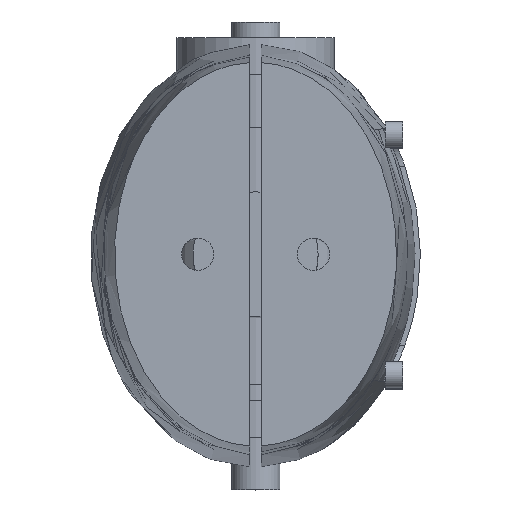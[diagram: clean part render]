
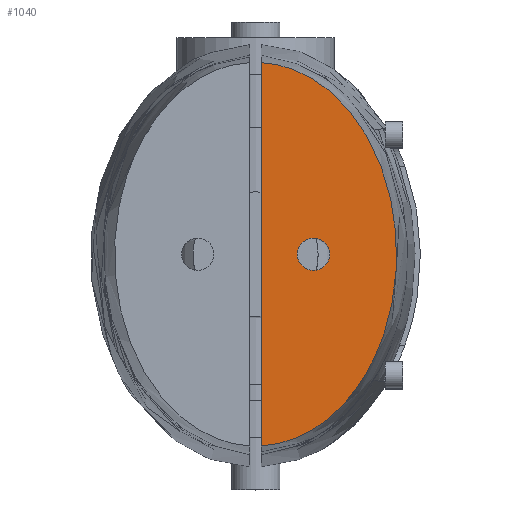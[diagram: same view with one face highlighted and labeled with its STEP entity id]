
A CAD part, top view. The second image highlights one B-rep face of the part: STEP entity #1040.
In plain terms, the highlighted planar face has unit normal (0, 0, 1).
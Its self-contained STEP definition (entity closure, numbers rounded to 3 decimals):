
#465 = VERTEX_POINT('',#466);
#466 = CARTESIAN_POINT('',(0.25,-8.274,43.2));
#564 = VERTEX_POINT('',#565);
#565 = CARTESIAN_POINT('',(0.25,8.274,43.2));
#642 = EDGE_CURVE('',#465,#564,#643,.T.);
#643 = B_SPLINE_CURVE_WITH_KNOTS('',14,(#644,#645,#646,#647,#648,#649,
    #650,#651,#652,#653,#654,#655,#656,#657,#658),.UNSPECIFIED.,.T.,.F.,
  (15,15),(0.,1.),.PIECEWISE_BEZIER_KNOTS.);
#644 = CARTESIAN_POINT('',(0.,8.281,43.2));
#645 = CARTESIAN_POINT('',(-2.733,8.281,43.2));
#646 = CARTESIAN_POINT('',(-5.466,6.485,43.2));
#647 = CARTESIAN_POINT('',(-7.508,2.892,43.2));
#648 = CARTESIAN_POINT('',(-8.166,-1.959,43.2));
#649 = CARTESIAN_POINT('',(-6.997,-6.996,43.2));
#650 = CARTESIAN_POINT('',(-4.055,-10.84,43.2));
#651 = CARTESIAN_POINT('',(0.,-12.288,43.2));
#652 = CARTESIAN_POINT('',(4.055,-10.84,43.2));
#653 = CARTESIAN_POINT('',(6.997,-6.996,43.2));
#654 = CARTESIAN_POINT('',(8.166,-1.959,43.2));
#655 = CARTESIAN_POINT('',(7.508,2.892,43.2));
#656 = CARTESIAN_POINT('',(5.466,6.485,43.2));
#657 = CARTESIAN_POINT('',(2.733,8.281,43.2));
#658 = CARTESIAN_POINT('',(0.,8.281,43.2));
#1030 = EDGE_CURVE('',#465,#564,#1031,.T.);
#1031 = LINE('',#1032,#1033);
#1032 = CARTESIAN_POINT('',(0.25,-13.36,43.2));
#1033 = VECTOR('',#1034,1.);
#1034 = DIRECTION('',(-0.,1.,0.));
#1040 = ADVANCED_FACE('',(#1041,#1045),#1056,.T.);
#1041 = FACE_BOUND('',#1042,.T.);
#1042 = EDGE_LOOP('',(#1043,#1044));
#1043 = ORIENTED_EDGE('',*,*,#1030,.F.);
#1044 = ORIENTED_EDGE('',*,*,#642,.T.);
#1045 = FACE_BOUND('',#1046,.T.);
#1046 = EDGE_LOOP('',(#1047));
#1047 = ORIENTED_EDGE('',*,*,#1048,.F.);
#1048 = EDGE_CURVE('',#1049,#1049,#1051,.T.);
#1049 = VERTEX_POINT('',#1050);
#1050 = CARTESIAN_POINT('',(3.2,0.,43.2));
#1051 = CIRCLE('',#1052,0.7);
#1052 = AXIS2_PLACEMENT_3D('',#1053,#1054,#1055);
#1053 = CARTESIAN_POINT('',(2.5,0.,43.2));
#1054 = DIRECTION('',(0.,0.,1.));
#1055 = DIRECTION('',(1.,0.,-0.));
#1056 = PLANE('',#1057);
#1057 = AXIS2_PLACEMENT_3D('',#1058,#1059,#1060);
#1058 = CARTESIAN_POINT('',(0.,8.281,43.2));
#1059 = DIRECTION('',(0.,0.,1.));
#1060 = DIRECTION('',(0.,-1.,0.));
